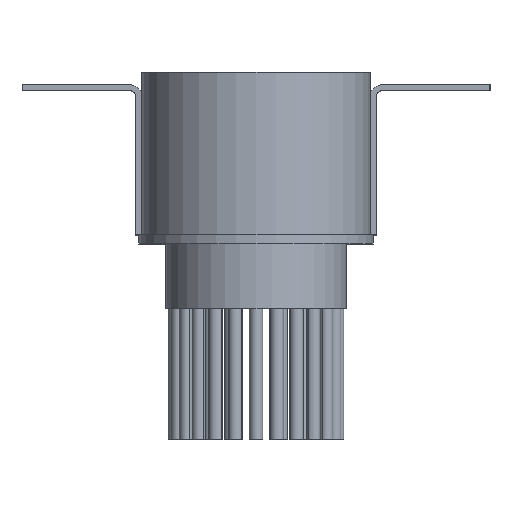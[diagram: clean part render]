
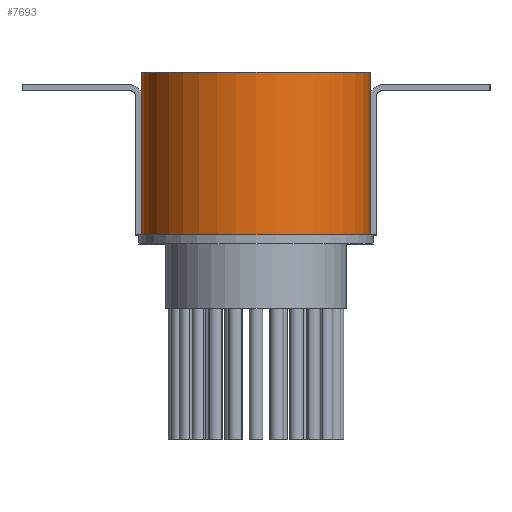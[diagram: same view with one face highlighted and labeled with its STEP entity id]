
A CAD part, top view. The second image highlights one B-rep face of the part: STEP entity #7693.
In plain terms, the highlighted cylindrical face has radius 19.001 mm (diameter 38.003 mm), a partial arc.
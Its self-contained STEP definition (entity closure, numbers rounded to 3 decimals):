
#775=LINE('',#13872,#1151);
#776=LINE('',#13873,#1152);
#1151=VECTOR('',#10748,304.8);
#1152=VECTOR('',#10749,304.8);
#1477=CYLINDRICAL_SURFACE('',#8628,19.001);
#1847=FACE_OUTER_BOUND('',#2503,.T.);
#2503=EDGE_LOOP('',(#6740,#6741,#6742,#6743));
#3217=CIRCLE('',#8615,19.001);
#3223=CIRCLE('',#8629,19.001);
#3934=VERTEX_POINT('',#13842);
#3935=VERTEX_POINT('',#13844);
#3940=VERTEX_POINT('',#13869);
#3941=VERTEX_POINT('',#13870);
#4907=EDGE_CURVE('',#3934,#3935,#3217,.T.);
#4918=EDGE_CURVE('',#3935,#3940,#775,.T.);
#4919=EDGE_CURVE('',#3941,#3934,#776,.T.);
#4920=EDGE_CURVE('',#3941,#3940,#3223,.T.);
#6740=ORIENTED_EDGE('',*,*,#4920,.F.);
#6741=ORIENTED_EDGE('',*,*,#4919,.T.);
#6742=ORIENTED_EDGE('',*,*,#4907,.T.);
#6743=ORIENTED_EDGE('',*,*,#4918,.T.);
#7693=ADVANCED_FACE('',(#1847),#1477,.T.);
#8615=AXIS2_PLACEMENT_3D('',#13848,#10717,#10718);
#8628=AXIS2_PLACEMENT_3D('',#13874,#10750,#10751);
#8629=AXIS2_PLACEMENT_3D('',#13875,#10752,#10753);
#10717=DIRECTION('center_axis',(0.,0.,1.));
#10718=DIRECTION('ref_axis',(-1.,0.,0.));
#10748=DIRECTION('',(0.,0.,1.));
#10749=DIRECTION('',(0.,0.,-1.));
#10750=DIRECTION('center_axis',(0.,0.,-1.));
#10751=DIRECTION('ref_axis',(-1.,0.,0.));
#10752=DIRECTION('center_axis',(0.,0.,1.));
#10753=DIRECTION('ref_axis',(-1.,0.,0.));
#13842=CARTESIAN_POINT('',(19.001,0.,-27.004));
#13844=CARTESIAN_POINT('',(-19.001,0.,-27.004));
#13848=CARTESIAN_POINT('Origin',(0.,0.,-27.004));
#13869=CARTESIAN_POINT('',(-19.001,0.,0.));
#13870=CARTESIAN_POINT('',(19.001,0.,0.));
#13872=CARTESIAN_POINT('',(-19.001,0.,-27.004));
#13873=CARTESIAN_POINT('',(19.001,0.,0.));
#13874=CARTESIAN_POINT('Origin',(0.,0.,18.304));
#13875=CARTESIAN_POINT('Origin',(0.,0.,0.));
